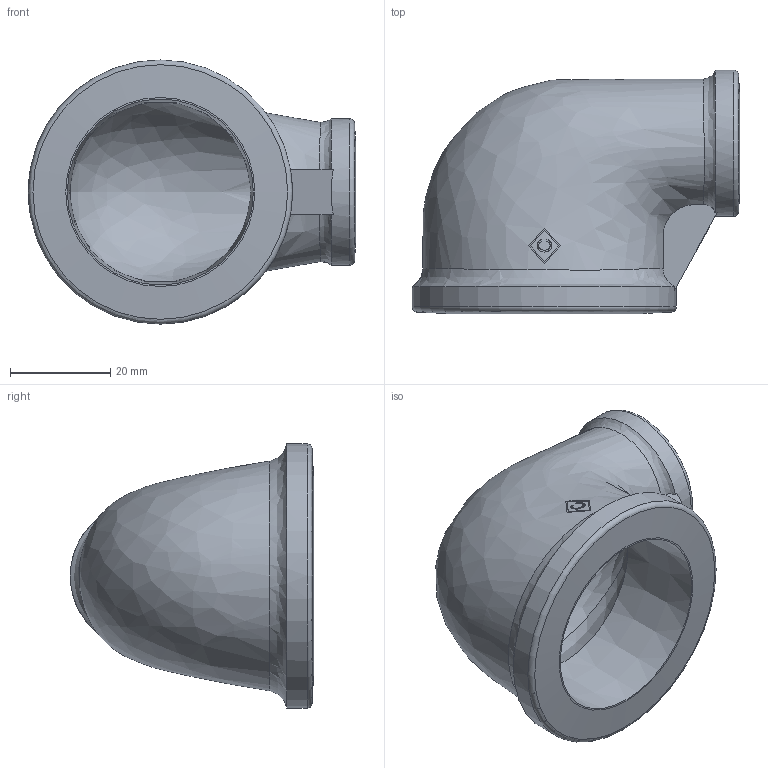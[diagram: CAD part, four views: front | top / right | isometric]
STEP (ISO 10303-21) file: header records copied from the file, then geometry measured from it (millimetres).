
FILE_DESCRIPTION((''),'2;1');
FILE_NAME('P:\Fastrack\53909_CRANE\Crane\Fig.151 Elbow\New 1.25 inch\151-1.25x0.50.stp','2009-09-15T11:09:56',('btaylor'),(''),'Autodesk Inventor 2008','Autodesk Inventor 2008','');
FILE_SCHEMA(('AUTOMOTIVE_DESIGN { 1 0 10303 214 1 1 1 1 }'));
Length unit declared in the file: millimetre
Products named in the file (1): 151-1.25x0.50
Bounding box: 65.35 x 48.6 x 52.7 mm (x, y, z)
Volume: 30434.3 mm3; surface area: 15897.4 mm2
Topology: 1 solids, 1 shells, 40 faces, 138 edges, 103 vertices
Faces by surface type: bspline 17, plane 15, cone 4, torus 2, cylinder 2
Full cylindrical faces by diameter (mm): 29.2 x1, 52.7 x1
Entity records: 4846 total; most frequent: CARTESIAN_POINT 3779, ORIENTED_EDGE 258, DIRECTION 140, EDGE_CURVE 129, VERTEX_POINT 102, B_SPLINE_CURVE_WITH_KNOTS 71, AXIS2_PLACEMENT_3D 58, EDGE_LOOP 53
